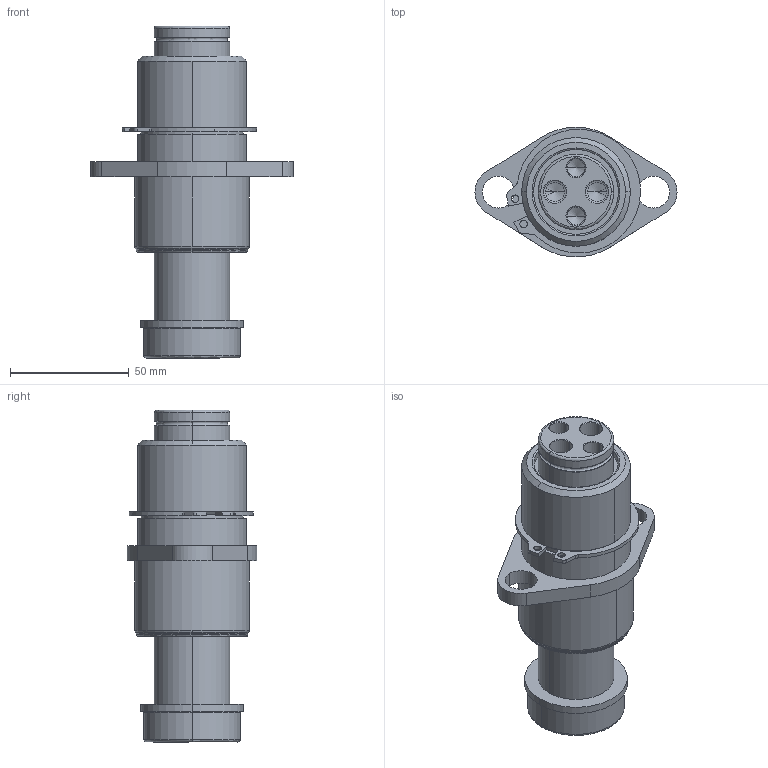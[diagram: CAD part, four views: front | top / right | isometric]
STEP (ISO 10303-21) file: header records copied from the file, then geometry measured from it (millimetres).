
FILE_DESCRIPTION (( 'STEP AP214' ), '1' );
FILE_NAME ('GK120-N3-2-BP-E-XXX.STEP', '2020-09-21T16:06:08', ( '' ), ( '' ), 'SwSTEP 2.0', 'SolidWorks 2017', '' );
FILE_SCHEMA (( 'AUTOMOTIVE_DESIGN' ));
Length unit declared in the file: inch
Products named in the file (7): RetainingRing; GK1.25-N3-2-BP-Base; GK120-E-XXX-GuidePin; GK120-DampeningWasher; GK120-N3-2-BP-E-XXX
Assembly tree (6 placements, depth 3):
  GK120-N3-2-BP-E-XXX
    GK1.25-N3-2-BP-Base
      GK1.25-N3-2-BP-Base
      RetainingRing
    GK120-E-XXX-GuidePin
      GK120-E-XXX-GuidePin
      GK120-DampeningWasher
Bounding box: 85.09 x 54.52 x 139.7 mm (x, y, z)
Volume: 195573.7 mm3; surface area: 48560.6 mm2
Topology: 4 solids, 4 shells, 151 faces, 349 edges, 212 vertices
Faces by surface type: cylinder 67, bspline 30, cone 30, plane 24
Entity records: 5691 total; most frequent: CARTESIAN_POINT 1881, DIRECTION 753, ORIENTED_EDGE 682, EDGE_CURVE 341, AXIS2_PLACEMENT_3D 310, VERTEX_POINT 212, CIRCLE 178, EDGE_LOOP 177
